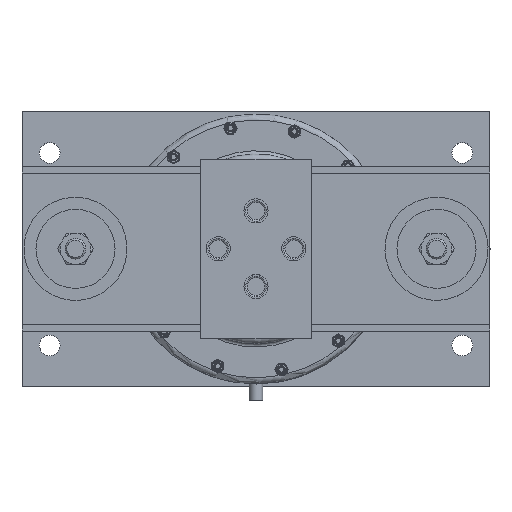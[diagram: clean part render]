
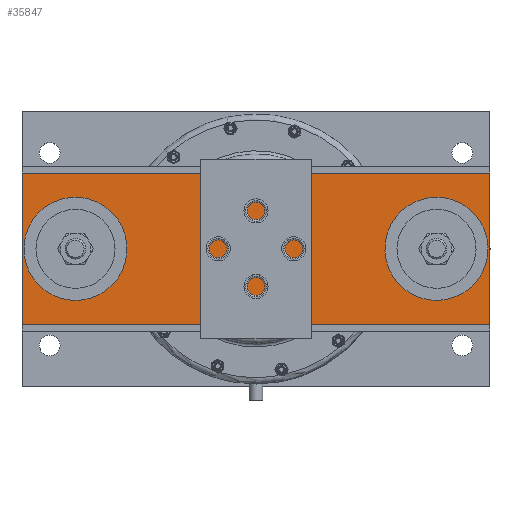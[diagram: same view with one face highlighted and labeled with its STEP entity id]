
A CAD part, top view. The second image highlights one B-rep face of the part: STEP entity #35847.
In plain terms, the highlighted planar face has unit normal (0, 0, 1).
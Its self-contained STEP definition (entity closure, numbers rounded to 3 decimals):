
#2833=LINE('',#64846,#4817);
#2850=LINE('',#64874,#4834);
#2851=LINE('',#64877,#4835);
#2857=LINE('',#64886,#4841);
#4817=VECTOR('',#50025,5.5);
#4834=VECTOR('',#50052,17.);
#4835=VECTOR('',#50055,17.);
#4841=VECTOR('',#50065,5.5);
#6774=PLANE('',#39934);
#7695=FACE_BOUND('',#12711,.T.);
#7696=FACE_BOUND('',#12712,.T.);
#7697=FACE_BOUND('',#12713,.T.);
#9903=FACE_OUTER_BOUND('',#12710,.T.);
#12710=EDGE_LOOP('',(#31905,#31906,#31907,#31908));
#12711=EDGE_LOOP('',(#31909));
#12712=EDGE_LOOP('',(#31910));
#12713=EDGE_LOOP('',(#31911));
#14210=CIRCLE('',#39533,1.875);
#14214=CIRCLE('',#39541,1.875);
#14224=CIRCLE('',#39562,0.525);
#17190=VERTEX_POINT('',#63499);
#17194=VERTEX_POINT('',#63511);
#17220=VERTEX_POINT('',#63579);
#17528=VERTEX_POINT('',#64843);
#17529=VERTEX_POINT('',#64845);
#17535=VERTEX_POINT('',#64872);
#17536=VERTEX_POINT('',#64876);
#21806=EDGE_CURVE('',#17190,#17190,#14210,.T.);
#21810=EDGE_CURVE('',#17194,#17194,#14214,.T.);
#21841=EDGE_CURVE('',#17220,#17220,#14224,.T.);
#22330=EDGE_CURVE('',#17529,#17528,#2833,.T.);
#22348=EDGE_CURVE('',#17535,#17528,#2850,.T.);
#22349=EDGE_CURVE('',#17536,#17529,#2851,.T.);
#22355=EDGE_CURVE('',#17535,#17536,#2857,.T.);
#31905=ORIENTED_EDGE('',*,*,#22330,.T.);
#31906=ORIENTED_EDGE('',*,*,#22348,.F.);
#31907=ORIENTED_EDGE('',*,*,#22355,.T.);
#31908=ORIENTED_EDGE('',*,*,#22349,.T.);
#31909=ORIENTED_EDGE('',*,*,#21810,.F.);
#31910=ORIENTED_EDGE('',*,*,#21841,.T.);
#31911=ORIENTED_EDGE('',*,*,#21806,.F.);
#35847=ADVANCED_FACE('',(#9903,#7695,#7696,#7697),#6774,.T.);
#39533=AXIS2_PLACEMENT_3D('',#63500,#48985,#48986);
#39541=AXIS2_PLACEMENT_3D('',#63512,#49001,#49002);
#39562=AXIS2_PLACEMENT_3D('',#63580,#49064,#49065);
#39934=AXIS2_PLACEMENT_3D('',#64888,#50067,#50068);
#48985=DIRECTION('center_axis',(0.,0.,
1.));
#48986=DIRECTION('ref_axis',(0.814,0.581,0.));
#49001=DIRECTION('center_axis',(0.,0.,
1.));
#49002=DIRECTION('ref_axis',(-0.306,-0.952,0.));
#49064=DIRECTION('center_axis',(0.,0.,
-1.));
#49065=DIRECTION('ref_axis',(0.999,-0.053,0.));
#50025=DIRECTION('',(0.,-1.,0.));
#50052=DIRECTION('',(-1.,0.,0.));
#50055=DIRECTION('',(-1.,0.,0.));
#50065=DIRECTION('',(0.,1.,0.));
#50067=DIRECTION('center_axis',(0.,0.,
1.));
#50068=DIRECTION('ref_axis',(-1.,0.,0.));
#63499=CARTESIAN_POINT('',(-4.302,0.74,8.));
#63500=CARTESIAN_POINT('Origin',(-5.827,-0.35,8.));
#63511=CARTESIAN_POINT('',(6.724,-2.136,8.));
#63512=CARTESIAN_POINT('Origin',(7.298,-0.35,8.));
#63579=CARTESIAN_POINT('',(0.211,-0.322,8.));
#63580=CARTESIAN_POINT('Origin',(0.735,-0.35,8.));
#64843=CARTESIAN_POINT('',(-7.765,-3.1,8.));
#64845=CARTESIAN_POINT('',(-7.765,2.4,8.));
#64846=CARTESIAN_POINT('',(-7.765,-3.1,8.));
#64872=CARTESIAN_POINT('',(9.235,-3.1,8.));
#64874=CARTESIAN_POINT('',(0.735,-3.1,8.));
#64876=CARTESIAN_POINT('',(9.235,2.4,8.));
#64877=CARTESIAN_POINT('',(0.735,2.4,8.));
#64886=CARTESIAN_POINT('',(9.235,-3.1,8.));
#64888=CARTESIAN_POINT('Origin',(0.735,2.4,8.));
